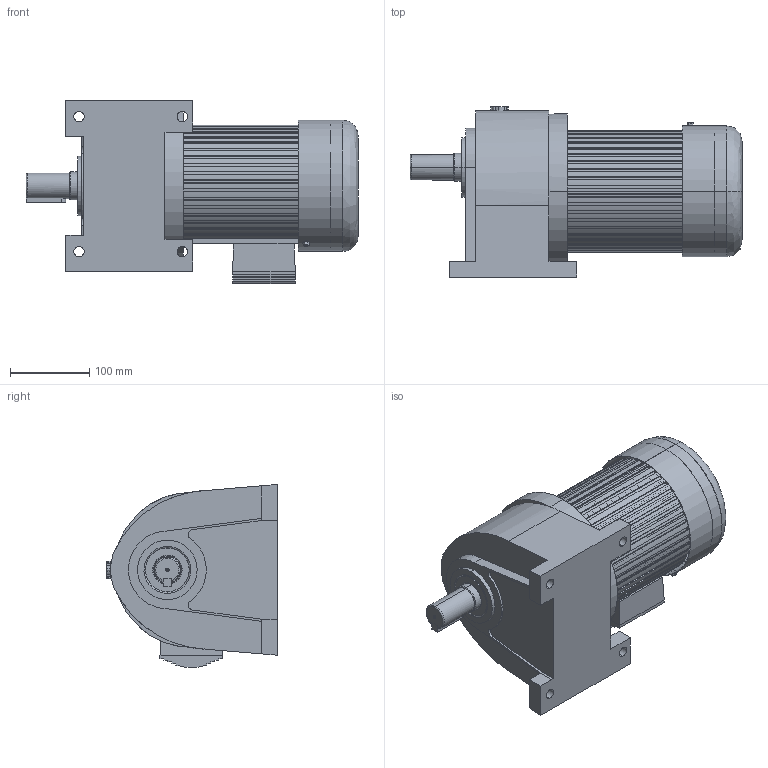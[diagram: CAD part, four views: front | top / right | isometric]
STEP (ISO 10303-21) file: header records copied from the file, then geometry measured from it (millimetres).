
FILE_DESCRIPTION (( 'STEP AP214' ), '1' );
FILE_NAME ('CH32-750W.STEP', '2024-01-08T12:47:43', ( '微软用户' ), ( '微软中国' ), 'SwSTEP 2.0', 'SolidWorks 2014', '' );
FILE_SCHEMA (( 'AUTOMOTIVE_DESIGN' ));
Length unit declared in the file: millimetre
Products named in the file (1): CH32-750W
Bounding box: 418 x 215 x 230.5 mm (x, y, z)
Volume: 2778244.5 mm3; surface area: 665231.4 mm2
Topology: 5 solids, 6 shells, 929 faces, 2681 edges, 1779 vertices
Faces by surface type: plane 589, cylinder 318, bspline 12, cone 10
Entity records: 32604 total; most frequent: CARTESIAN_POINT 6329, ORIENTED_EDGE 5362, DIRECTION 5127, EDGE_CURVE 2681, LINE 1993, VECTOR 1993, VERTEX_POINT 1779, AXIS2_PLACEMENT_3D 1567
